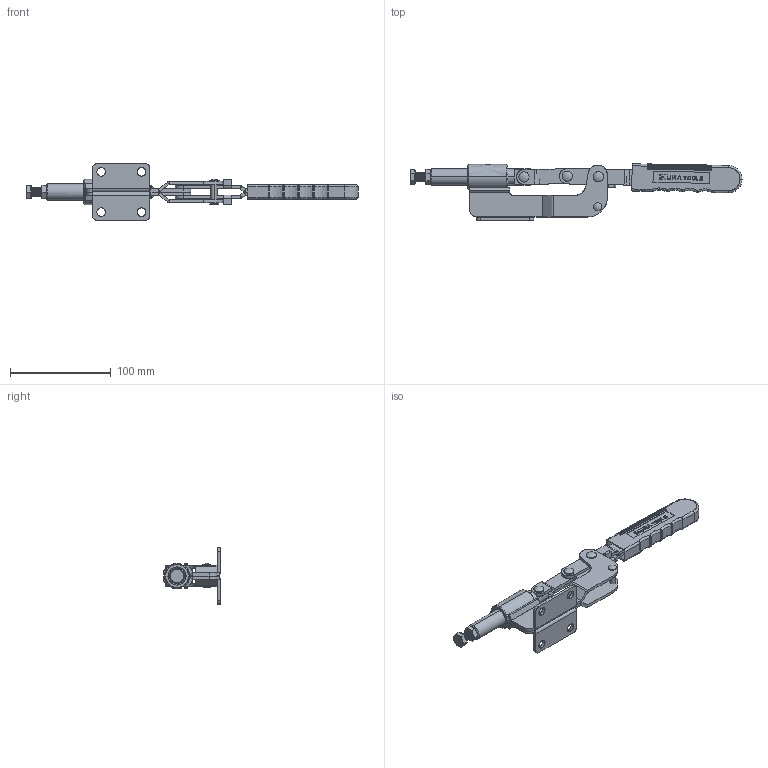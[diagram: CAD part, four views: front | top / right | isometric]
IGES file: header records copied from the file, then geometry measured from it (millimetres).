
Start section: SolidWorks IGES file using analytic representation for surfaces
Global section: file name: \\KOUGU-SV1\Public\Solidworks\工具事業部\坂入用\Toggle clamp\ISK-X60-T1\ISK-X60-T1.IGS; native system: SolidWorks 2023; preprocessor: SolidWorks 2023; author: design_room 03; date: 230330.161203; units: millimetre
Bounding box: 330.3 x 55.98 x 56 mm (x, y, z)
Surface area: 70905.7 mm2 (no closed solid volume)
Topology: 0 solids, 0 shells, 1684 faces, 18052 edges, 18034 vertices
Faces by surface type: bspline 1063, revolution 621
